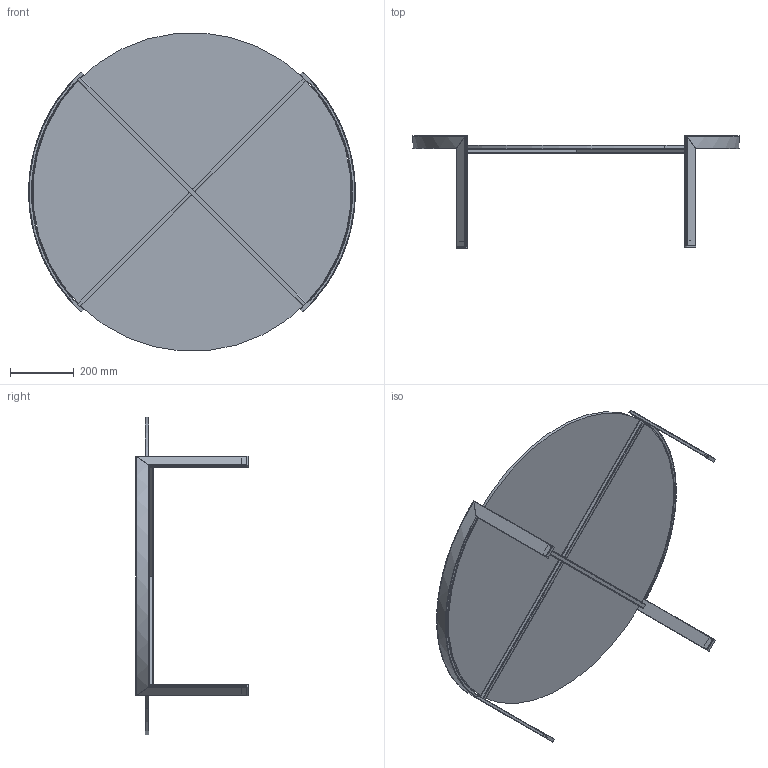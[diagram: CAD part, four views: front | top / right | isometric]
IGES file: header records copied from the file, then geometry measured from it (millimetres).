
Start section: SolidWorks IGES file using analytic representation for surfaces
Global section: file name: Y:\eforma\TECNICO\SOLIDWORKS\E-FORMA\2-TAVOLINI\PEO-PERRY COFFEE TABLE\02 parts\PR03G_Perry_d.100x32h_Glass.IGS; native system: SolidWorks 2022; preprocessor: SolidWorks 2022; author: eforma.tech; date: 240806.135149; units: millimetre
Bounding box: 1025 x 352 x 997.65 mm (x, y, z)
Volume: 8351174.1 mm3; surface area: 2366515 mm2
Topology: 18 solids, 18 shells, 270 faces, 730 edges, 456 vertices
Faces by surface type: revolution 138, plane 132
